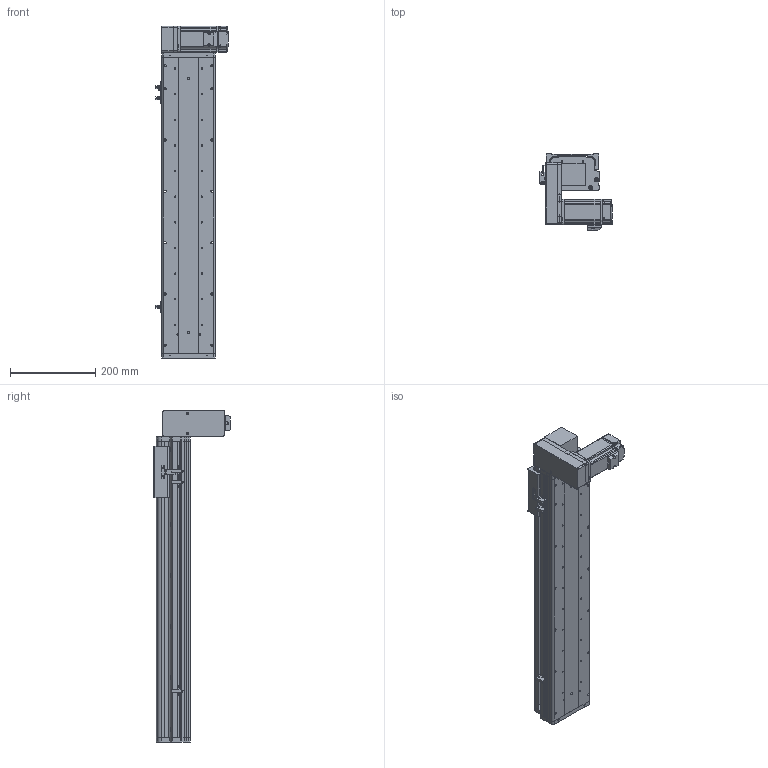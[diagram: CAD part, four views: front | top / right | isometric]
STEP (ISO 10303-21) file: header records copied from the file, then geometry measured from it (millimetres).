
FILE_DESCRIPTION (( 'STEP AP214' ), '1' );
FILE_NAME ('KSD125B-S500-MRD-CM.STEP', '2017-10-21T06:04:19', ( '微软用户' ), ( '微软中国' ), 'SwSTEP 2.0', 'SolidWorks 2014', '' );
FILE_SCHEMA (( 'AUTOMOTIVE_DESIGN' ));
Length unit declared in the file: millimetre
Products named in the file (17): HTPA30S3M150_A_H6_a佪裝蚚; HTPA30S3M150_A_H6_a萇儂蚚; 100宽马达安装板连板上下折丝杆同步带; MHMD042G1CA_2_03; KSD125模组同步带-防撞垫2; 覜茼え68遵圉猾敕; U倰嫖萇假蚾璃; U倰嫖萇EEㄜSX672; KSD125模组同步带-防撞垫1; 100宽马达安装板同步带右; 前端板-125宽模组同步带; 125模组同步带-尾端板1; KSD125模组500行程同步带-防尘盖; KSD125模组同步带-滑动座1; 125模组500行程同步带-底板; KSD125B-S500-MRD-CM; 悵誘欶奻狟殏
Assembly tree (20 placements, depth 2):
  KSD125B-S500-MRD-CM
    125模组500行程同步带-底板
    KSD125模组同步带-滑动座1
    KSD125模组500行程同步带-防尘盖
    125模组同步带-尾端板1
    前端板-125宽模组同步带
    100宽马达安装板同步带右
    KSD125模组同步带-防撞垫1
    U倰嫖萇EEㄜSX672  x3
    U倰嫖萇假蚾璃  x3
    覜茼え68遵圉猾敕
    KSD125模组同步带-防撞垫2
    MHMD042G1CA_2_03
    100宽马达安装板连板上下折丝杆同步带
    HTPA30S3M150_A_H6_a萇儂蚚
    HTPA30S3M150_A_H6_a佪裝蚚
    悵誘欶奻狟殏
Bounding box: 168.7 x 179.5 x 777 mm (x, y, z)
Volume: 2588974.6 mm3; surface area: 901279.6 mm2
Topology: 19 solids, 22 shells, 2249 faces, 6511 edges, 4302 vertices
Faces by surface type: cylinder 1400, plane 722, cone 105, bspline 22
Entity records: 79709 total; most frequent: CARTESIAN_POINT 15777, DIRECTION 12400, ORIENTED_EDGE 11542, EDGE_CURVE 5849, AXIS2_PLACEMENT_3D 4785, VERTEX_POINT 3894, VECTOR 2830, LINE 2830
